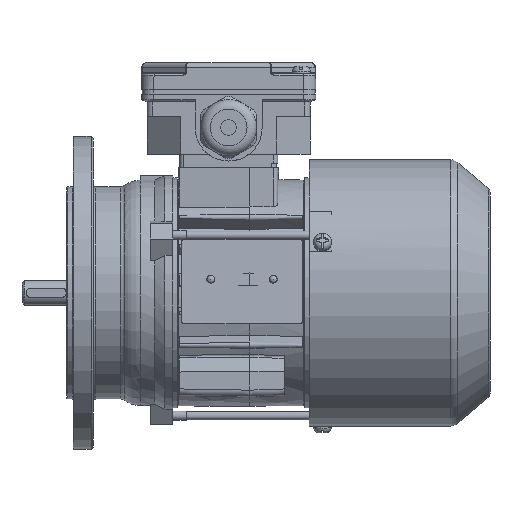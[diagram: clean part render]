
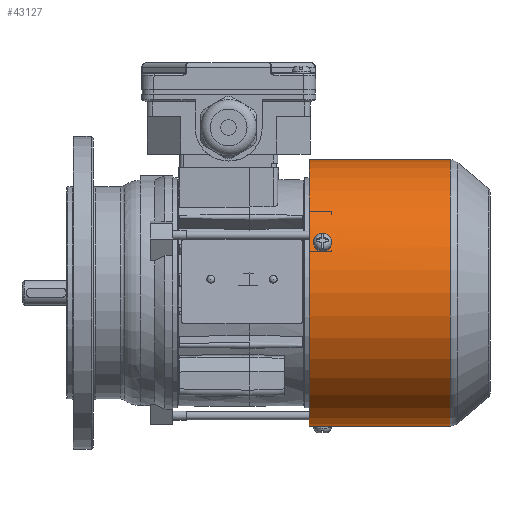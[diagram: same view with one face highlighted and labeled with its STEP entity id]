
A CAD part, front view. The second image highlights one B-rep face of the part: STEP entity #43127.
In plain terms, the highlighted cylindrical face has radius 59.6 mm (diameter 119.2 mm), a full revolution.
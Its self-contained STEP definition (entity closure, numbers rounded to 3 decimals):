
#918=B_SPLINE_CURVE_WITH_KNOTS('',3,(#64098,#64099,#64100,#64101,#64102,
#64103,#64104),.UNSPECIFIED.,.F.,.F.,(4,1,1,1,4),(0.,0.002,
0.004,0.006,0.008),
 .UNSPECIFIED.);
#920=B_SPLINE_CURVE_WITH_KNOTS('',3,(#64122,#64123,#64124,#64125,#64126,
#64127,#64128),.UNSPECIFIED.,.F.,.F.,(4,1,1,1,4),(0.,
0.002,0.004,0.006,0.008),
 .UNSPECIFIED.);
#922=B_SPLINE_CURVE_WITH_KNOTS('',3,(#64149,#64150,#64151,#64152,#64153,
#64154,#64155),.UNSPECIFIED.,.F.,.F.,(4,1,1,1,4),(0.,0.002,
0.004,0.006,0.008),
 .UNSPECIFIED.);
#924=B_SPLINE_CURVE_WITH_KNOTS('',3,(#64173,#64174,#64175,#64176,#64177,
#64178,#64179),.UNSPECIFIED.,.F.,.F.,(4,1,1,1,4),(0.,0.002,
0.004,0.006,0.008),
 .UNSPECIFIED.);
#925=B_SPLINE_CURVE_WITH_KNOTS('',3,(#64185,#64186,#64187,#64188,#64189,
#64190,#64191),.UNSPECIFIED.,.F.,.F.,(4,1,1,1,4),(0.,
0.002,0.004,0.006,0.007),
 .UNSPECIFIED.);
#926=B_SPLINE_CURVE_WITH_KNOTS('',3,(#64194,#64195,#64196,#64197,#64198,
#64199,#64200),.UNSPECIFIED.,.F.,.F.,(4,1,1,1,4),(0.,
0.002,0.004,0.006,0.007),
 .UNSPECIFIED.);
#7160=CYLINDRICAL_SURFACE('',#45907,59.6);
#13354=ORIENTED_EDGE('',*,*,#19529,.T.);
#13355=ORIENTED_EDGE('',*,*,#19526,.T.);
#13356=ORIENTED_EDGE('',*,*,#19523,.T.);
#13357=ORIENTED_EDGE('',*,*,#19531,.T.);
#13358=ORIENTED_EDGE('',*,*,#19545,.F.);
#13359=ORIENTED_EDGE('',*,*,#19546,.F.);
#13360=ORIENTED_EDGE('',*,*,#19542,.T.);
#13361=ORIENTED_EDGE('',*,*,#19539,.T.);
#13362=ORIENTED_EDGE('',*,*,#19536,.T.);
#13363=ORIENTED_EDGE('',*,*,#19544,.T.);
#13364=ORIENTED_EDGE('',*,*,#18247,.F.);
#13365=ORIENTED_EDGE('',*,*,#19532,.T.);
#18247=EDGE_CURVE('',#22243,#22243,#24663,.T.);
#19523=EDGE_CURVE('',#23102,#23105,#918,.T.);
#19526=EDGE_CURVE('',#23106,#23102,#25095,.F.);
#19529=EDGE_CURVE('',#23108,#23106,#920,.T.);
#19531=EDGE_CURVE('',#23105,#23108,#25097,.F.);
#19532=EDGE_CURVE('',#23110,#23110,#25098,.F.);
#19536=EDGE_CURVE('',#23111,#23114,#922,.T.);
#19539=EDGE_CURVE('',#23115,#23111,#25100,.F.);
#19542=EDGE_CURVE('',#23117,#23115,#924,.T.);
#19544=EDGE_CURVE('',#23114,#23117,#25102,.F.);
#19545=EDGE_CURVE('',#23119,#23120,#925,.T.);
#19546=EDGE_CURVE('',#23120,#23119,#926,.T.);
#22243=VERTEX_POINT('',#61423);
#23102=VERTEX_POINT('',#64086);
#23105=VERTEX_POINT('',#64097);
#23106=VERTEX_POINT('',#64107);
#23108=VERTEX_POINT('',#64113);
#23110=VERTEX_POINT('',#64134);
#23111=VERTEX_POINT('',#64137);
#23114=VERTEX_POINT('',#64148);
#23115=VERTEX_POINT('',#64158);
#23117=VERTEX_POINT('',#64164);
#23119=VERTEX_POINT('',#64192);
#23120=VERTEX_POINT('',#64193);
#24663=CIRCLE('',#45007,59.6);
#25095=CIRCLE('',#45891,59.6);
#25097=CIRCLE('',#45895,59.6);
#25098=CIRCLE('',#45897,59.6);
#25100=CIRCLE('',#45901,59.6);
#25102=CIRCLE('',#45906,59.6);
#26854=EDGE_LOOP('',(#13354,#13355,#13356,#13357));
#26855=EDGE_LOOP('',(#13358,#13359));
#26856=EDGE_LOOP('',(#13360,#13361,#13362,#13363));
#26857=EDGE_LOOP('',(#13364));
#26858=EDGE_LOOP('',(#13365));
#28960=FACE_BOUND('',#26854,.T.);
#28961=FACE_BOUND('',#26855,.T.);
#28962=FACE_BOUND('',#26856,.T.);
#28963=FACE_BOUND('',#26857,.T.);
#28964=FACE_BOUND('',#26858,.T.);
#43127=ADVANCED_FACE('',(#28960,#28961,#28962,#28963,#28964),#7160,.T.);
#45007=AXIS2_PLACEMENT_3D('',#61422,#50236,#50237);
#45891=AXIS2_PLACEMENT_3D('',#64110,#52829,#52830);
#45895=AXIS2_PLACEMENT_3D('',#64131,#52838,#52839);
#45897=AXIS2_PLACEMENT_3D('',#64133,#52842,#52843);
#45901=AXIS2_PLACEMENT_3D('',#64161,#52853,#52854);
#45906=AXIS2_PLACEMENT_3D('',#64183,#52864,#52865);
#45907=AXIS2_PLACEMENT_3D('',#64184,#52866,#52867);
#50236=DIRECTION('',(-1.,0.,0.));
#50237=DIRECTION('',(0.,0.,1.));
#52829=DIRECTION('',(-1.,0.,0.));
#52830=DIRECTION('',(0.,0.866,-0.5));
#52838=DIRECTION('',(1.,0.,0.));
#52839=DIRECTION('',(0.,-0.866,0.5));
#52842=DIRECTION('',(1.,0.,0.));
#52843=DIRECTION('',(0.,0.,-1.));
#52853=DIRECTION('',(-1.,0.,0.));
#52854=DIRECTION('',(0.,0.,1.));
#52864=DIRECTION('',(1.,0.,0.));
#52865=DIRECTION('',(0.,0.,-1.));
#52866=DIRECTION('',(-1.,0.,0.));
#52867=DIRECTION('',(0.,0.,1.));
#61422=CARTESIAN_POINT('',(26.5,0.,0.));
#61423=CARTESIAN_POINT('',(26.5,0.,59.6));
#64086=CARTESIAN_POINT('',(35.,46.437,37.36));
#64097=CARTESIAN_POINT('',(30.,46.437,37.36));
#64098=CARTESIAN_POINT('',(35.,46.437,37.36));
#64099=CARTESIAN_POINT('',(35.,46.023,37.874));
#64100=CARTESIAN_POINT('',(34.458,45.191,38.867));
#64101=CARTESIAN_POINT('',(32.502,44.648,39.479));
#64102=CARTESIAN_POINT('',(30.542,45.19,38.869));
#64103=CARTESIAN_POINT('',(30.,46.023,37.874));
#64104=CARTESIAN_POINT('',(30.,46.437,37.36));
#64107=CARTESIAN_POINT('',(35.,47.484,36.02));
#64110=CARTESIAN_POINT('',(35.,0.,0.));
#64113=CARTESIAN_POINT('',(30.,47.484,36.02));
#64122=CARTESIAN_POINT('',(30.,47.484,36.02));
#64123=CARTESIAN_POINT('',(30.,47.883,35.493));
#64124=CARTESIAN_POINT('',(30.542,48.645,34.446));
#64125=CARTESIAN_POINT('',(32.498,49.108,33.771));
#64126=CARTESIAN_POINT('',(34.458,48.646,34.444));
#64127=CARTESIAN_POINT('',(35.,47.883,35.493));
#64128=CARTESIAN_POINT('',(35.,47.484,36.02));
#64131=CARTESIAN_POINT('',(30.,0.,0.));
#64133=CARTESIAN_POINT('',(89.809,0.,0.));
#64134=CARTESIAN_POINT('',(89.809,0.,-59.6));
#64137=CARTESIAN_POINT('',(35.,-55.573,21.536));
#64148=CARTESIAN_POINT('',(30.,-55.573,21.536));
#64149=CARTESIAN_POINT('',(35.,-55.573,21.536));
#64150=CARTESIAN_POINT('',(35.,-55.812,20.92));
#64151=CARTESIAN_POINT('',(34.458,-56.255,19.703));
#64152=CARTESIAN_POINT('',(32.502,-56.514,18.927));
#64153=CARTESIAN_POINT('',(30.542,-56.256,19.701));
#64154=CARTESIAN_POINT('',(30.,-55.812,20.92));
#64155=CARTESIAN_POINT('',(30.,-55.573,21.536));
#64158=CARTESIAN_POINT('',(35.,-54.936,23.112));
#64161=CARTESIAN_POINT('',(35.,0.,0.));
#64164=CARTESIAN_POINT('',(30.,-54.936,23.112));
#64173=CARTESIAN_POINT('',(30.,-54.936,23.112));
#64174=CARTESIAN_POINT('',(30.,-54.68,23.721));
#64175=CARTESIAN_POINT('',(30.542,-54.154,24.905));
#64176=CARTESIAN_POINT('',(32.498,-53.8,25.643));
#64177=CARTESIAN_POINT('',(34.458,-54.153,24.907));
#64178=CARTESIAN_POINT('',(35.,-54.68,23.721));
#64179=CARTESIAN_POINT('',(35.,-54.936,23.112));
#64183=CARTESIAN_POINT('',(30.,0.,0.));
#64184=CARTESIAN_POINT('',(-33.5,0.,0.));
#64185=CARTESIAN_POINT('',(35.,8.295,-59.02));
#64186=CARTESIAN_POINT('',(34.937,7.681,-59.106));
#64187=CARTESIAN_POINT('',(34.356,6.499,-59.249));
#64188=CARTESIAN_POINT('',(32.502,5.777,-59.318));
#64189=CARTESIAN_POINT('',(30.649,6.493,-59.25));
#64190=CARTESIAN_POINT('',(30.063,7.681,-59.106));
#64191=CARTESIAN_POINT('',(30.,8.295,-59.02));
#64192=CARTESIAN_POINT('',(35.,8.295,-59.02));
#64193=CARTESIAN_POINT('',(30.,8.295,-59.02));
#64194=CARTESIAN_POINT('',(30.,8.295,-59.02));
#64195=CARTESIAN_POINT('',(30.063,8.908,-58.934));
#64196=CARTESIAN_POINT('',(30.644,10.084,-58.746));
#64197=CARTESIAN_POINT('',(32.498,10.797,-58.613));
#64198=CARTESIAN_POINT('',(34.351,10.09,-58.745));
#64199=CARTESIAN_POINT('',(34.937,8.908,-58.934));
#64200=CARTESIAN_POINT('',(35.,8.295,-59.02));
